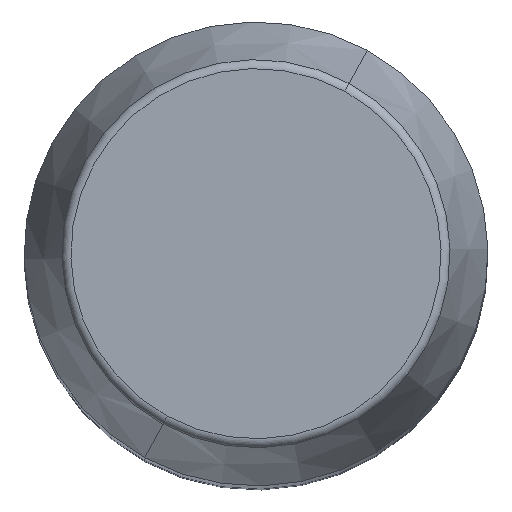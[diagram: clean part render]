
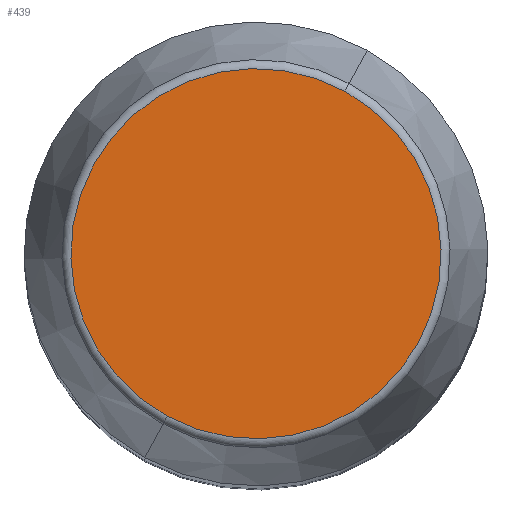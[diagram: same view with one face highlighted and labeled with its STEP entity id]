
A CAD part, top view. The second image highlights one B-rep face of the part: STEP entity #439.
In plain terms, the highlighted planar face has unit normal (0, 0, 1).
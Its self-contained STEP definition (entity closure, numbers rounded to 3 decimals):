
#391=CARTESIAN_POINT('Vertex',(-9.562,-17.504,280.)) ;
#394=CARTESIAN_POINT('Axis2P3D Location',(0.,0.,280.)) ;
#398=CARTESIAN_POINT('Vertex',(9.562,17.504,280.)) ;
#418=CARTESIAN_POINT('Axis2P3D Location',(0.,0.,280.)) ;
#430=CARTESIAN_POINT('Axis2P3D Location',(0.,19.945,280.)) ;
#395=DIRECTION('Axis2P3D Direction',(0.,0.,-1.)) ;
#419=DIRECTION('Axis2P3D Direction',(0.,0.,-1.)) ;
#431=DIRECTION('Axis2P3D Direction',(0.,0.,-1.)) ;
#432=DIRECTION('Axis2P3D XDirection',(1.,0.,0.)) ;
#396=AXIS2_PLACEMENT_3D('Circle Axis2P3D',#394,#395,$) ;
#420=AXIS2_PLACEMENT_3D('Circle Axis2P3D',#418,#419,$) ;
#433=AXIS2_PLACEMENT_3D('Plane Axis2P3D',#430,#431,#432) ;
#436=ORIENTED_EDGE('',*,*,#422,.F.) ;
#437=ORIENTED_EDGE('',*,*,#400,.F.) ;
#439=ADVANCED_FACE('PartBody',(#438),#434,.F.) ;
#397=CIRCLE('generated circle',#396,19.945) ;
#421=CIRCLE('generated circle',#420,19.945) ;
#400=EDGE_CURVE('',#392,#399,#397,.T.) ;
#422=EDGE_CURVE('',#399,#392,#421,.T.) ;
#435=EDGE_LOOP('',(#436,#437)) ;
#438=FACE_OUTER_BOUND('',#435,.T.) ;
#434=PLANE('Plane',#433) ;
#392=VERTEX_POINT('',#391) ;
#399=VERTEX_POINT('',#398) ;
